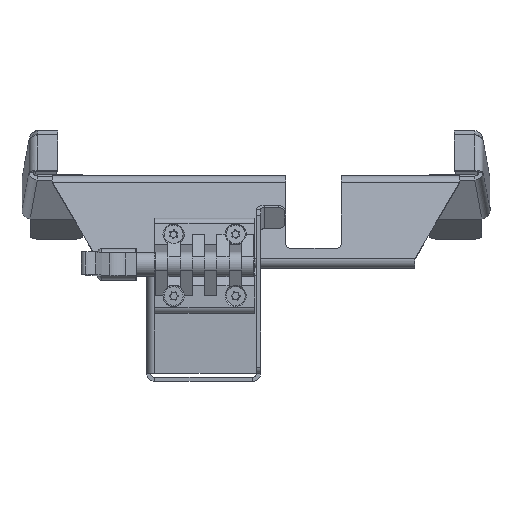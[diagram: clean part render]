
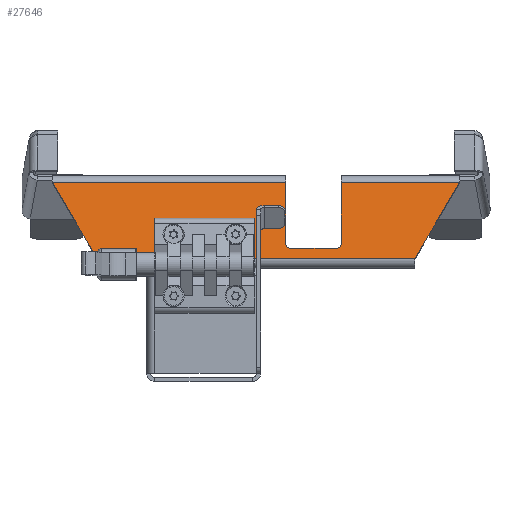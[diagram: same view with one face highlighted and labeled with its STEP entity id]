
A CAD part, front view. The second image highlights one B-rep face of the part: STEP entity #27646.
In plain terms, the highlighted planar face has unit normal (0, -0.982, 0.191).
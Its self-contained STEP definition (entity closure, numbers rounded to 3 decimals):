
#913 = VERTEX_POINT ( 'NONE', #31338 ) ;
#1542 = LINE ( 'NONE', #42172, #12177 ) ;
#1970 = DIRECTION ( 'NONE',  ( 1., 0., 0. ) ) ;
#2070 = DIRECTION ( 'NONE',  ( 0., 0.191, 0.982 ) ) ;
#3246 = EDGE_CURVE ( 'NONE', #8206, #51036, #10628, .T. ) ;
#4219 = LINE ( 'NONE', #6468, #45451 ) ;
#4389 = FACE_BOUND ( 'NONE', #17562, .T. ) ;
#4451 = EDGE_LOOP ( 'NONE', ( #28861, #16337 ) ) ;
#5500 = CARTESIAN_POINT ( 'NONE',  ( 9.25, -1.283, 68.237 ) ) ;
#5590 = EDGE_CURVE ( 'NONE', #913, #40297, #46313, .T. ) ;
#5797 = EDGE_CURVE ( 'NONE', #45415, #24443, #10082, .T. ) ;
#5952 = CARTESIAN_POINT ( 'NONE',  ( -57.75, 4.824, 99.686 ) ) ;
#6468 = CARTESIAN_POINT ( 'NONE',  ( -28.311, -3.183, 58.456 ) ) ;
#6953 = CARTESIAN_POINT ( 'NONE',  ( 127.811, -3.183, 58.456 ) ) ;
#8206 = VERTEX_POINT ( 'NONE', #47283 ) ;
#8803 = VECTOR ( 'NONE', #1970, 1000. ) ;
#9043 = CARTESIAN_POINT ( 'NONE',  ( 39.75, -1.283, 68.237 ) ) ;
#9437 = FACE_BOUND ( 'NONE', #4451, .T. ) ;
#9516 = DIRECTION ( 'NONE',  ( 0., 0.191, 0.982 ) ) ;
#9813 = PLANE ( 'NONE',  #40599 ) ;
#9824 = EDGE_CURVE ( 'NONE', #30611, #38181, #44256, .T. ) ;
#9988 = DIRECTION ( 'NONE',  ( 0., 0.191, 0.982 ) ) ;
#10045 = VERTEX_POINT ( 'NONE', #11408 ) ;
#10082 = LINE ( 'NONE', #41748, #8803 ) ;
#10519 = VECTOR ( 'NONE', #21390, 1000. ) ;
#10628 = CIRCLE ( 'NONE', #38239, 3. ) ;
#11408 = CARTESIAN_POINT ( 'NONE',  ( 39.75, -1.893, 65.096 ) ) ;
#11753 = EDGE_CURVE ( 'NONE', #8206, #18459, #20921, .T. ) ;
#12176 = AXIS2_PLACEMENT_3D ( 'NONE', #9043, #36938, #13065 ) ;
#12177 = VECTOR ( 'NONE', #14273, 1000. ) ;
#12395 = CARTESIAN_POINT ( 'NONE',  ( -50.25, 4.062, 95.759 ) ) ;
#13065 = DIRECTION ( 'NONE',  ( 0., 0.191, 0.982 ) ) ;
#13133 = CIRCLE ( 'NONE', #15478, 3.2 ) ;
#13421 = DIRECTION ( 'NONE',  ( 0., -0.982, 0.191 ) ) ;
#13783 = EDGE_CURVE ( 'NONE', #43464, #10045, #36092, .T. ) ;
#13834 = VERTEX_POINT ( 'NONE', #33272 ) ;
#14273 = DIRECTION ( 'NONE',  ( 0., 0.191, 0.982 ) ) ;
#14470 = DIRECTION ( 'NONE',  ( 1., 0., 0. ) ) ;
#14655 = LINE ( 'NONE', #34113, #25269 ) ;
#14754 = EDGE_CURVE ( 'NONE', #18540, #18459, #24025, .T. ) ;
#14779 = CARTESIAN_POINT ( 'NONE',  ( 39.75, -0.673, 71.379 ) ) ;
#15006 = FACE_OUTER_BOUND ( 'NONE', #31918, .T. ) ;
#15478 = AXIS2_PLACEMENT_3D ( 'NONE', #49881, #25953, #2070 ) ;
#16337 = ORIENTED_EDGE ( 'NONE', *, *, #29175, .F. ) ;
#17562 = EDGE_LOOP ( 'NONE', ( #38504, #31047 ) ) ;
#18459 = VERTEX_POINT ( 'NONE', #40791 ) ;
#18540 = VERTEX_POINT ( 'NONE', #49711 ) ;
#18679 = CARTESIAN_POINT ( 'NONE',  ( 88.75, -1.658, 66.309 ) ) ;
#19635 = ORIENTED_EDGE ( 'NONE', *, *, #5590, .F. ) ;
#19696 = CARTESIAN_POINT ( 'NONE',  ( 64.25, -1.658, 66.309 ) ) ;
#20625 = DIRECTION ( 'NONE',  ( 1., 0., 0. ) ) ;
#20796 = CARTESIAN_POINT ( 'NONE',  ( 64.25, -2.23, 63.364 ) ) ;
#20921 = LINE ( 'NONE', #20796, #31535 ) ;
#21282 = DIRECTION ( 'NONE',  ( 1., 0., 0. ) ) ;
#21390 = DIRECTION ( 'NONE',  ( 0., 0.191, 0.982 ) ) ;
#21579 = CARTESIAN_POINT ( 'NONE',  ( 64.25, -2.23, 63.364 ) ) ;
#21723 = DIRECTION ( 'NONE',  ( 0., 0.982, -0.191 ) ) ;
#22224 = ORIENTED_EDGE ( 'NONE', *, *, #40070, .T. ) ;
#22343 = CARTESIAN_POINT ( 'NONE',  ( 9.25, -0.673, 71.379 ) ) ;
#22701 = DIRECTION ( 'NONE',  ( 0., 0.191, 0.982 ) ) ;
#24025 = CIRCLE ( 'NONE', #50673, 3. ) ;
#24034 = AXIS2_PLACEMENT_3D ( 'NONE', #37325, #13421, #41338 ) ;
#24443 = VERTEX_POINT ( 'NONE', #39205 ) ;
#25078 = VECTOR ( 'NONE', #14470, 1000. ) ;
#25269 = VECTOR ( 'NONE', #38103, 1000. ) ;
#25318 = CIRCLE ( 'NONE', #24034, 3.2 ) ;
#25805 = ORIENTED_EDGE ( 'NONE', *, *, #35830, .T. ) ;
#25953 = DIRECTION ( 'NONE',  ( 0., -0.982, 0.191 ) ) ;
#26547 = ORIENTED_EDGE ( 'NONE', *, *, #44381, .T. ) ;
#27646 = ADVANCED_FACE ( 'NONE', ( #9437, #4389, #15006 ), #9813, .F. ) ;
#28861 = ORIENTED_EDGE ( 'NONE', *, *, #13783, .F. ) ;
#29175 = EDGE_CURVE ( 'NONE', #10045, #43464, #25318, .T. ) ;
#30611 = VERTEX_POINT ( 'NONE', #22343 ) ;
#31047 = ORIENTED_EDGE ( 'NONE', *, *, #47053, .F. ) ;
#31338 = CARTESIAN_POINT ( 'NONE',  ( 91.75, 4.062, 95.759 ) ) ;
#31535 = VECTOR ( 'NONE', #20625, 1000. ) ;
#31918 = EDGE_LOOP ( 'NONE', ( #44150, #40652, #22224, #42046, #26547, #40922, #25805, #19635, #45297, #40115 ) ) ;
#33272 = CARTESIAN_POINT ( 'NONE',  ( -28.311, -3.183, 58.456 ) ) ;
#33410 = DIRECTION ( 'NONE',  ( 0., -0.982, 0.191 ) ) ;
#33872 = DIRECTION ( 'NONE',  ( 0., 0.982, -0.191 ) ) ;
#34113 = CARTESIAN_POINT ( 'NONE',  ( 149.75, 4.062, 95.759 ) ) ;
#34989 = CARTESIAN_POINT ( 'NONE',  ( 149.75, 4.062, 95.759 ) ) ;
#35830 = EDGE_CURVE ( 'NONE', #42776, #40297, #14655, .T. ) ;
#36092 = CIRCLE ( 'NONE', #12176, 3.2 ) ;
#36938 = DIRECTION ( 'NONE',  ( 0., -0.982, 0.191 ) ) ;
#37184 = CARTESIAN_POINT ( 'NONE',  ( -57.75, -3.183, 58.456 ) ) ;
#37325 = CARTESIAN_POINT ( 'NONE',  ( 39.75, -1.283, 68.237 ) ) ;
#37441 = EDGE_CURVE ( 'NONE', #13834, #42776, #50073, .T. ) ;
#38103 = DIRECTION ( 'NONE',  ( 0.5, 0.165, 0.85 ) ) ;
#38181 = VERTEX_POINT ( 'NONE', #47567 ) ;
#38239 = AXIS2_PLACEMENT_3D ( 'NONE', #45640, #21723, #49661 ) ;
#38363 = CARTESIAN_POINT ( 'NONE',  ( 149.75, 4.062, 95.759 ) ) ;
#38504 = ORIENTED_EDGE ( 'NONE', *, *, #9824, .F. ) ;
#39205 = CARTESIAN_POINT ( 'NONE',  ( 64.25, 4.062, 95.759 ) ) ;
#39417 = VECTOR ( 'NONE', #21282, 1000. ) ;
#40070 = EDGE_CURVE ( 'NONE', #51036, #24443, #51670, .T. ) ;
#40115 = ORIENTED_EDGE ( 'NONE', *, *, #14754, .T. ) ;
#40297 = VERTEX_POINT ( 'NONE', #34989 ) ;
#40599 = AXIS2_PLACEMENT_3D ( 'NONE', #5952, #33872, #9988 ) ;
#40652 = ORIENTED_EDGE ( 'NONE', *, *, #3246, .T. ) ;
#40791 = CARTESIAN_POINT ( 'NONE',  ( 88.75, -2.23, 63.364 ) ) ;
#40922 = ORIENTED_EDGE ( 'NONE', *, *, #37441, .T. ) ;
#41338 = DIRECTION ( 'NONE',  ( 0., 0.191, 0.982 ) ) ;
#41748 = CARTESIAN_POINT ( 'NONE',  ( 149.75, 4.062, 95.759 ) ) ;
#42046 = ORIENTED_EDGE ( 'NONE', *, *, #5797, .F. ) ;
#42172 = CARTESIAN_POINT ( 'NONE',  ( 91.75, -2.23, 63.364 ) ) ;
#42427 = DIRECTION ( 'NONE',  ( 0.5, -0.165, -0.85 ) ) ;
#42776 = VERTEX_POINT ( 'NONE', #6953 ) ;
#43464 = VERTEX_POINT ( 'NONE', #14779 ) ;
#44150 = ORIENTED_EDGE ( 'NONE', *, *, #11753, .F. ) ;
#44256 = CIRCLE ( 'NONE', #47896, 3.2 ) ;
#44381 = EDGE_CURVE ( 'NONE', #45415, #13834, #4219, .T. ) ;
#45297 = ORIENTED_EDGE ( 'NONE', *, *, #45636, .F. ) ;
#45415 = VERTEX_POINT ( 'NONE', #12395 ) ;
#45451 = VECTOR ( 'NONE', #42427, 1000. ) ;
#45636 = EDGE_CURVE ( 'NONE', #18540, #913, #1542, .T. ) ;
#45640 = CARTESIAN_POINT ( 'NONE',  ( 67.25, -1.658, 66.309 ) ) ;
#46313 = LINE ( 'NONE', #38363, #25078 ) ;
#46630 = DIRECTION ( 'NONE',  ( 0., 0.982, -0.191 ) ) ;
#47053 = EDGE_CURVE ( 'NONE', #38181, #30611, #13133, .T. ) ;
#47283 = CARTESIAN_POINT ( 'NONE',  ( 67.25, -2.23, 63.364 ) ) ;
#47567 = CARTESIAN_POINT ( 'NONE',  ( 9.25, -1.893, 65.096 ) ) ;
#47896 = AXIS2_PLACEMENT_3D ( 'NONE', #5500, #33410, #9516 ) ;
#49661 = DIRECTION ( 'NONE',  ( 0., 0.191, 0.982 ) ) ;
#49711 = CARTESIAN_POINT ( 'NONE',  ( 91.75, -1.658, 66.309 ) ) ;
#49881 = CARTESIAN_POINT ( 'NONE',  ( 9.25, -1.283, 68.237 ) ) ;
#50073 = LINE ( 'NONE', #37184, #39417 ) ;
#50673 = AXIS2_PLACEMENT_3D ( 'NONE', #18679, #46630, #22701 ) ;
#51036 = VERTEX_POINT ( 'NONE', #19696 ) ;
#51670 = LINE ( 'NONE', #21579, #10519 ) ;
